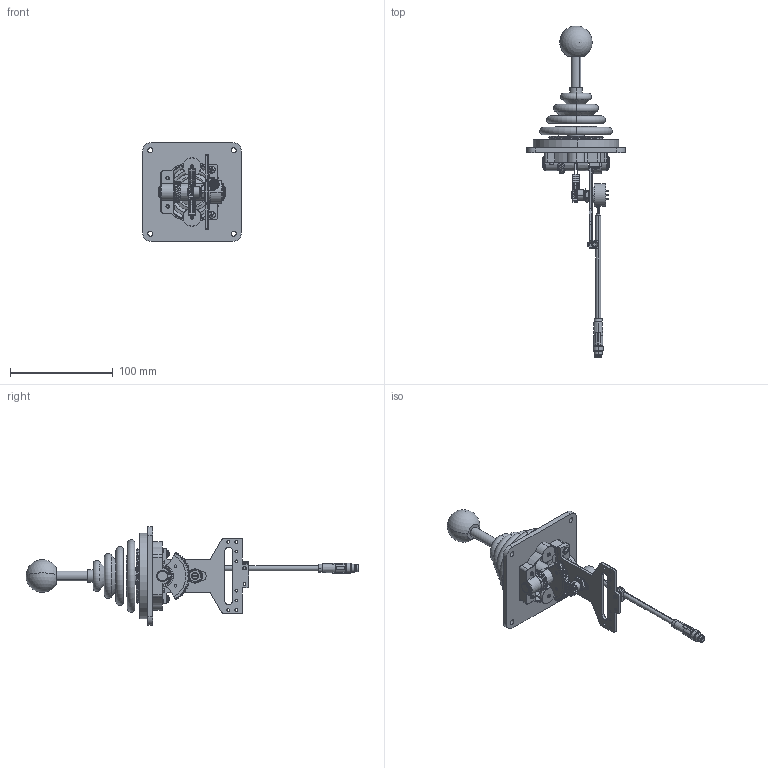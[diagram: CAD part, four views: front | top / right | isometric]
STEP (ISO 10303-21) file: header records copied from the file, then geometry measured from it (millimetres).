
FILE_DESCRIPTION (( 'STEP AP214' ), '1' );
FILE_NAME ('7169-ABU.STEP', '2026-05-27T17:40:12', ( '' ), ( '' ), 'SwSTEP 2.0', 'SolidWorks 2023', '' );
FILE_SCHEMA (( 'AUTOMOTIVE_DESIGN' ));
Length unit declared in the file: inch
Products named in the file (1): 7169-ABU
Bounding box: 96.52 x 323.81 x 96.52 mm (x, y, z)
Surface area: 75285.1 mm2 (no closed solid volume)
Topology: 0 solids, 62 shells, 773 faces, 2966 edges, 2142 vertices
Faces by surface type: cylinder 348, plane 153, bspline 97, torus 91, cone 79, sphere 5
Entity records: 48658 total; most frequent: CARTESIAN_POINT 14771, DIRECTION 4990, ORIENTED_EDGE 4533, EDGE_CURVE 2956, VERTEX_POINT 2139, AXIS2_PLACEMENT_3D 1958, CIRCLE 1281, LINE 1074
